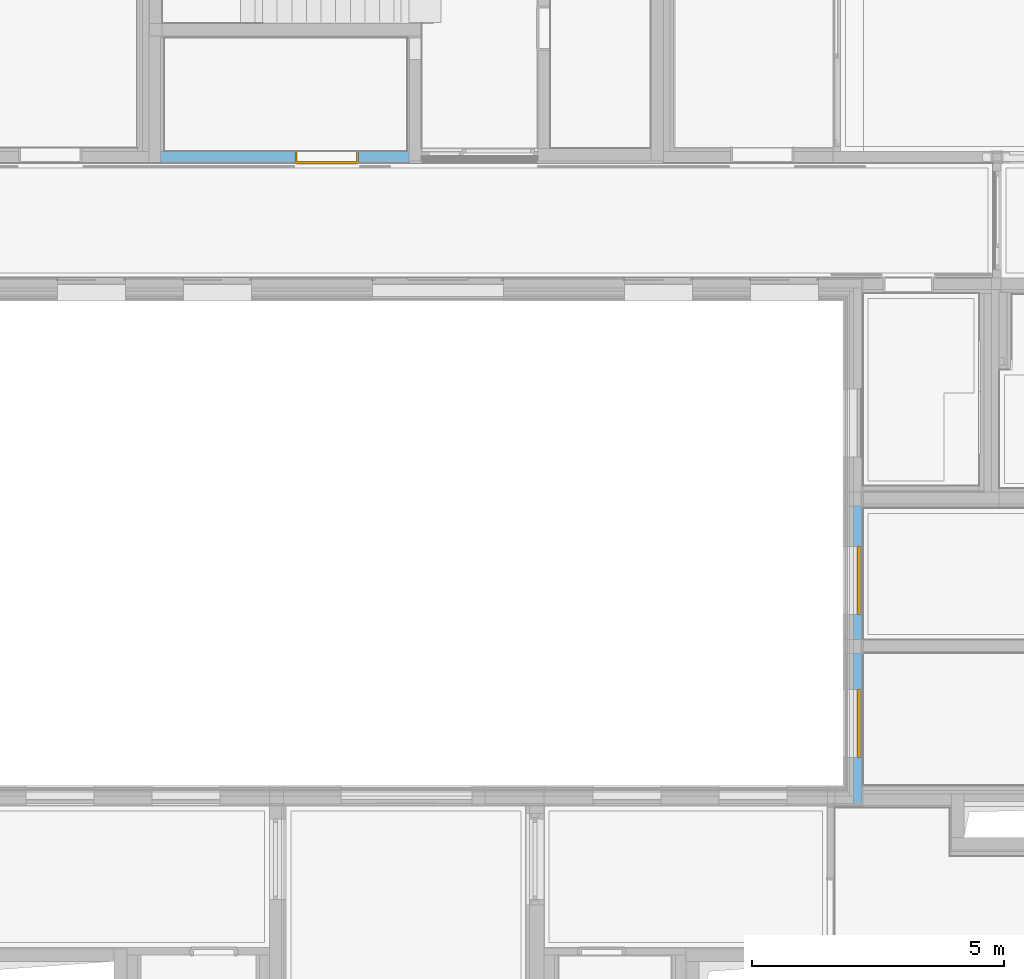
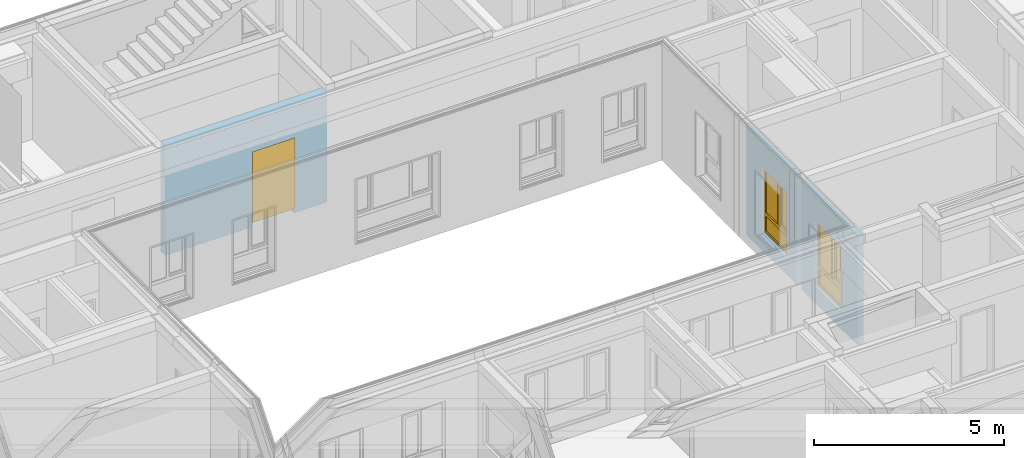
# One storey, part 95 of 222: 2 windows, 1 door, 3 openings, plus 3 elements that do not belong to this part.
"""IFC4 building model written with IfcOpenShell, lengths in metres."""

from ifc_helpers import new_model, entity, si_unit, converted_unit, derived_unit, frame, frame_2d, origin, origin_with_axes, place, context, subcontext, project, spatial, polyline, rectangle, outline, extrude, closed_shell, open_shell, faceted_brep, surface_model, source, transform, mapped, material, type_object, element, fill, save


model = new_model("IFC4")

# Units and contexts
model_context = context("Model", 3, precision=1e-05, world=origin())
body_context = subcontext(model_context, "Body", "Model", "MODEL_VIEW")
ifc_project = project(units=[si_unit("LENGTHUNIT", "METRE"), si_unit("AREAUNIT", "SQUARE_METRE"), si_unit("VOLUMEUNIT", "CUBIC_METRE"), si_unit("MASSUNIT", "GRAM", prefix="KILO"), converted_unit("PLANEANGLEUNIT", "DEGREE", entity("IfcPlaneAngleMeasure", 0.0174532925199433), si_unit("PLANEANGLEUNIT", "RADIAN"), dimensions=[0, 0, 0, 0, 0, 0, 0]), derived_unit("THERMALTRANSMITTANCEUNIT", [(si_unit("POWERUNIT", "WATT"), 1), (si_unit("THERMODYNAMICTEMPERATUREUNIT", "KELVIN"), -1), (si_unit("LENGTHUNIT", "METRE"), -2)]), derived_unit("VOLUMETRICFLOWRATEUNIT", [(si_unit("LENGTHUNIT", "METRE"), 3), (converted_unit("TIMEUNIT", "hour", entity("IfcTimeMeasure", 3600.0), si_unit("TIMEUNIT", "SECOND"), dimensions=[0, 0, 1, 0, 0, 0, 0]), -1), (si_unit("LENGTHUNIT", "METRE"), -1)])], contexts=[model_context])

# Site, building, storey
site_placement = place(None, origin())
site = spatial("IfcSite", under=ifc_project, at=site_placement, Name="Psychiatrie Neubau Wunstorf", CompositionType="ELEMENT")
building_placement = place(site_placement, origin())
building = spatial("IfcBuilding", under=site, at=building_placement, Name="Neubau H2 Stationsgebäude", CompositionType="ELEMENT")
storey_placement = place(building_placement, frame((0.0, 0.0, 3.6)))
storey = spatial("IfcBuildingStorey", under=building, at=storey_placement, Name="H2 Ebene +1", CompositionType="ELEMENT", Elevation=3.6)

# Wall, opening, window
ifc_material_1 = material(Name="WA-DL")
wall_1_placement = place(storey_placement, frame((62.025000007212, 10.1499996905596, 0.0), z_axis=(0.0, 0.0, 1.0), x_axis=(2.43546947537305e-15, 1.0, 0.0)))
wall_1 = element("IfcWall", 1, at=wall_1_placement, inside=storey, material=ifc_material_1, context=body_context, shape_type="SweptSolid", body=[
    extrude(rectangle(XDim=2.98749694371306, YDim=0.16, at=frame_2d((1.49374847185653, 0.08), x_axis=(1.0, 0.0))), origin_with_axes(), (0.0, 0.0, 1.0), 3.55),
])
opening_1_placement = place(wall_1_placement, frame((2.26999694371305, 0.159999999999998, 0.55), z_axis=(2.8421709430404e-15, -1.0, 0.0), x_axis=(0.0, 0.0, 1.0)))
opening_1 = element("IfcOpeningElement", 2, at=opening_1_placement, cuts=wall_1, Name="Fensteröffnung", ObjectType="Opening", context=body_context, shape_type="SweptSolid", body=[
    extrude(outline(polyline([(2.115, 1.35), (2.115, 0.0), (0.0, 0.0), (0.0, 1.35), (2.115, 1.35)])), origin_with_axes(), (0.0, 0.0, 1.0), 0.16),
])
shared_shape_1 = source(origin_with_axes(), body_context, "Body", "SurfaceModel", [
    surface_model("IfcShellBasedSurfaceModel", [(1.35000000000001, 0.0, 2.115), (1.35000000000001, 0.0, 0.0), (1.28000000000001, 0.0, 0.0), (1.28000000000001, 0.0, 2.115), (1.35000000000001, 0.0699999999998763, 0.0), (1.35000000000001, 0.0699999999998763, 2.115), (1.28000000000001, 0.0699999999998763, 2.115), (1.28000000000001, 0.0699999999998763, 0.0)], [closed_shell([[[0, 1, 2, 3]], [[4, 5, 6, 7]], [[1, 0, 5, 4]], [[2, 1, 4, 7]], [[3, 2, 7, 6]], [[0, 3, 6, 5]]], orient=[[False], [False], [False], [False], [False], [False]])]),
    surface_model("IfcShellBasedSurfaceModel", [(0.0700000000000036, 0.0, 2.115), (0.0700000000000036, 0.0, 0.0), (0.0, 0.0, 0.0), (0.0, 0.0, 2.115), (0.0700000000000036, 0.069999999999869, 0.0), (0.0700000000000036, 0.069999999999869, 2.115), (0.0, 0.069999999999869, 2.115), (0.0, 0.069999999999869, 0.0)], [closed_shell([[[0, 1, 2, 3]], [[4, 5, 6, 7]], [[1, 0, 5, 4]], [[2, 1, 4, 7]], [[3, 2, 7, 6]], [[0, 3, 6, 5]]], orient=[[False], [False], [False], [False], [False], [False]])]),
    surface_model("IfcShellBasedSurfaceModel", [(1.28000000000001, 0.0, 0.07), (1.28000000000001, 0.0, 0.0), (0.0700000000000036, 0.0, 0.0), (0.0700000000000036, 0.0, 0.07), (1.28000000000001, 0.0699999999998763, 0.0), (1.28000000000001, 0.0699999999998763, 0.07), (0.0700000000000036, 0.069999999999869, 0.07), (0.0700000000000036, 0.069999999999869, 0.0)], [closed_shell([[[0, 1, 2, 3]], [[4, 5, 6, 7]], [[1, 0, 5, 4]], [[2, 1, 4, 7]], [[3, 2, 7, 6]], [[0, 3, 6, 5]]], orient=[[False], [False], [False], [False], [False], [False]])]),
    surface_model("IfcShellBasedSurfaceModel", [(1.28000000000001, 0.0, 2.115), (1.28000000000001, 0.0, 2.045), (0.0700000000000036, 0.0, 2.045), (0.0700000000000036, 0.0, 2.115), (1.28000000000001, 0.0699999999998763, 2.045), (1.28000000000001, 0.0699999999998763, 2.115), (0.0700000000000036, 0.069999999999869, 2.115), (0.0700000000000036, 0.069999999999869, 2.045)], [closed_shell([[[0, 1, 2, 3]], [[4, 5, 6, 7]], [[1, 0, 5, 4]], [[2, 1, 4, 7]], [[3, 2, 7, 6]], [[0, 3, 6, 5]]], orient=[[False], [False], [False], [False], [False], [False]])]),
    surface_model("IfcShellBasedSurfaceModel", [(1.28000000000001, 0.0, 0.67), (1.28000000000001, 0.0, 0.57), (0.0700000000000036, 0.0, 0.57), (0.0700000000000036, 0.0, 0.67), (1.28000000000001, 0.0699999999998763, 0.57), (1.28000000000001, 0.0699999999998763, 0.67), (0.0700000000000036, 0.069999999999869, 0.67), (0.0700000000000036, 0.069999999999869, 0.57)], [closed_shell([[[0, 1, 2, 3]], [[4, 5, 6, 7]], [[1, 0, 5, 4]], [[2, 1, 4, 7]], [[3, 2, 7, 6]], [[0, 3, 6, 5]]], orient=[[False], [False], [False], [False], [False], [False]])]),
    surface_model("IfcShellBasedSurfaceModel", [(1.28000000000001, 0.0349999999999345, 0.07), (0.0700000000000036, 0.0349999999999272, 0.07), (0.0700000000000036, 0.0349999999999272, 0.57), (1.28000000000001, 0.0349999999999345, 0.57)], [open_shell([[[0, 1, 2, 3]]], orient=[[False]])]),
    surface_model("IfcShellBasedSurfaceModel", [(0.784300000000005, 0.0, 2.045), (0.784300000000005, 0.0, 0.67), (0.714300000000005, 0.0, 0.67), (0.714300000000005, 0.0, 2.045), (0.784300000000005, 0.069999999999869, 0.67), (0.784300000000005, 0.069999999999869, 2.045), (0.714300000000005, 0.069999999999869, 2.045), (0.714300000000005, 0.069999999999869, 0.67)], [closed_shell([[[0, 1, 2, 3]], [[4, 5, 6, 7]], [[1, 0, 5, 4]], [[2, 1, 4, 7]], [[3, 2, 7, 6]], [[0, 3, 6, 5]]], orient=[[False], [False], [False], [False], [False], [False]])]),
    surface_model("IfcShellBasedSurfaceModel", [(1.30000000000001, 0.0499999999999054, 2.065), (1.30000000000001, 0.0499999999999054, 0.65), (1.23000000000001, 0.0499999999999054, 0.65), (1.23000000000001, 0.0499999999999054, 2.065), (1.30000000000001, 0.119999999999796, 0.65), (1.30000000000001, 0.119999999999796, 2.065), (1.23000000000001, 0.119999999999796, 2.065), (1.23000000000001, 0.119999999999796, 0.65)], [closed_shell([[[0, 1, 2, 3]], [[4, 5, 6, 7]], [[1, 0, 5, 4]], [[2, 1, 4, 7]], [[3, 2, 7, 6]], [[0, 3, 6, 5]]], orient=[[False], [False], [False], [False], [False], [False]])]),
    surface_model("IfcShellBasedSurfaceModel", [(0.834300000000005, 0.0499999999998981, 2.065), (0.834300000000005, 0.0499999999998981, 0.65), (0.764300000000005, 0.0499999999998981, 0.65), (0.764300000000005, 0.0499999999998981, 2.065), (0.834300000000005, 0.119999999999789, 0.65), (0.834300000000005, 0.119999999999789, 2.065), (0.764300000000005, 0.119999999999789, 2.065), (0.764300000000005, 0.119999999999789, 0.65)], [closed_shell([[[0, 1, 2, 3]], [[4, 5, 6, 7]], [[1, 0, 5, 4]], [[2, 1, 4, 7]], [[3, 2, 7, 6]], [[0, 3, 6, 5]]], orient=[[False], [False], [False], [False], [False], [False]])]),
    surface_model("IfcShellBasedSurfaceModel", [(1.23000000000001, 0.0499999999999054, 0.72), (1.23000000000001, 0.0499999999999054, 0.65), (0.834300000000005, 0.0499999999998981, 0.65), (0.834300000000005, 0.0499999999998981, 0.72), (1.23000000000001, 0.119999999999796, 0.65), (1.23000000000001, 0.119999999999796, 0.72), (0.834300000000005, 0.119999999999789, 0.72), (0.834300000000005, 0.119999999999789, 0.65)], [closed_shell([[[0, 1, 2, 3]], [[4, 5, 6, 7]], [[1, 0, 5, 4]], [[2, 1, 4, 7]], [[3, 2, 7, 6]], [[0, 3, 6, 5]]], orient=[[False], [False], [False], [False], [False], [False]])]),
    surface_model("IfcShellBasedSurfaceModel", [(1.23000000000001, 0.0499999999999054, 2.065), (1.23000000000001, 0.0499999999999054, 1.995), (0.834300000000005, 0.0499999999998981, 1.995), (0.834300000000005, 0.0499999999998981, 2.065), (1.23000000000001, 0.119999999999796, 1.995), (1.23000000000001, 0.119999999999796, 2.065), (0.834300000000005, 0.119999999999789, 2.065), (0.834300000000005, 0.119999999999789, 1.995)], [closed_shell([[[0, 1, 2, 3]], [[4, 5, 6, 7]], [[1, 0, 5, 4]], [[2, 1, 4, 7]], [[3, 2, 7, 6]], [[0, 3, 6, 5]]], orient=[[False], [False], [False], [False], [False], [False]])]),
    surface_model("IfcShellBasedSurfaceModel", [(0.714300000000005, 0.0349999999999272, 0.67), (0.0700000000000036, 0.0349999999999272, 0.67), (0.0700000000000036, 0.0349999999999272, 2.045), (0.714300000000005, 0.0349999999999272, 2.045)], [open_shell([[[0, 1, 2, 3]]], orient=[[False]])]),
    surface_model("IfcShellBasedSurfaceModel", [(1.23000000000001, 0.0849999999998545, 0.72), (0.834300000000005, 0.0849999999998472, 0.72), (0.834300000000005, 0.0849999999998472, 1.995), (1.23000000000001, 0.0849999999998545, 1.995)], [open_shell([[[0, 1, 2, 3]]], orient=[[False]])]),
])
window_1_placement = place(opening_1_placement, frame((0.0, 0.0, 0.081), z_axis=(1.0, 0.0, 0.0), x_axis=(0.0, 1.0, -5.79629970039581e-15)))
window_1 = element("IfcWindow", 3, at=window_1_placement, inside=storey, Name="Fenster", OverallHeight=2.115, OverallWidth=1.35, PartitioningType="USERDEFINED", PredefinedType="WINDOW", context=body_context, shape_type="MappedRepresentation", body=[
    mapped(shared_shape_1, transform((0.0, 0.0, 0.0), x_axis=(1.0, 0.0, 0.0), y_axis=(0.0, 1.0, 0.0), z_axis=(0.0, 0.0, 1.0), scale=1.0)),
])
fill(opening_1, window_1)

ifc_material_2 = material(Name="WA-DL")
wall_2_placement = place(storey_placement, frame((62.0250000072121, 13.4094966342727, 0.0), z_axis=(0.0, 0.0, 1.0), x_axis=(0.0, 1.0, 0.0)))
wall_2 = element("IfcWall", 4, at=wall_2_placement, inside=storey, material=ifc_material_2, context=body_context, shape_type="SweptSolid", body=[
    extrude(rectangle(XDim=2.65450336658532, YDim=0.16, at=frame_2d((1.32725168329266, 0.08), x_axis=(1.0, 0.0))), origin_with_axes(), (0.0, 0.0, 1.0), 3.55),
])
opening_2_placement = place(wall_2_placement, frame((1.84550336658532, 0.16, 0.55), z_axis=(0.0, -1.0, 0.0), x_axis=(0.0, 0.0, 1.0)))
opening_2 = element("IfcOpeningElement", 5, at=opening_2_placement, cuts=wall_2, Name="Fensteröffnung", ObjectType="Opening", context=body_context, shape_type="SweptSolid", body=[
    extrude(outline(polyline([(2.115, 1.35), (2.115, 0.0), (0.0, 0.0), (0.0, 1.35), (2.115, 1.35)])), origin_with_axes(), (0.0, 0.0, 1.0), 0.16),
])
shared_shape_2 = source(origin_with_axes(), body_context, "Body", "SurfaceModel", [
    surface_model("IfcShellBasedSurfaceModel", [(1.35, 0.0, 2.115), (1.35, 0.0, 0.0), (1.28, 0.0, 0.0), (1.28, 0.0, 2.115), (1.35, 0.069999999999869, 0.0), (1.35, 0.069999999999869, 2.115), (1.28, 0.069999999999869, 2.115), (1.28, 0.069999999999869, 0.0)], [closed_shell([[[0, 1, 2, 3]], [[4, 5, 6, 7]], [[1, 0, 5, 4]], [[2, 1, 4, 7]], [[3, 2, 7, 6]], [[0, 3, 6, 5]]], orient=[[False], [False], [False], [False], [False], [False]])]),
    surface_model("IfcShellBasedSurfaceModel", [(0.0700000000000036, 0.0, 2.115), (0.0700000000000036, 0.0, 0.0), (0.0, 0.0, 0.0), (0.0, 0.0, 2.115), (0.0700000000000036, 0.069999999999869, 0.0), (0.0700000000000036, 0.069999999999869, 2.115), (0.0, 0.069999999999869, 2.115), (0.0, 0.069999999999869, 0.0)], [closed_shell([[[0, 1, 2, 3]], [[4, 5, 6, 7]], [[1, 0, 5, 4]], [[2, 1, 4, 7]], [[3, 2, 7, 6]], [[0, 3, 6, 5]]], orient=[[False], [False], [False], [False], [False], [False]])]),
    surface_model("IfcShellBasedSurfaceModel", [(1.28, 0.0, 0.07), (1.28, 0.0, 0.0), (0.0700000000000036, 0.0, 0.0), (0.0700000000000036, 0.0, 0.07), (1.28, 0.069999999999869, 0.0), (1.28, 0.069999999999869, 0.07), (0.0700000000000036, 0.069999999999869, 0.07), (0.0700000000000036, 0.069999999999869, 0.0)], [closed_shell([[[0, 1, 2, 3]], [[4, 5, 6, 7]], [[1, 0, 5, 4]], [[2, 1, 4, 7]], [[3, 2, 7, 6]], [[0, 3, 6, 5]]], orient=[[False], [False], [False], [False], [False], [False]])]),
    surface_model("IfcShellBasedSurfaceModel", [(1.28, 0.0, 2.115), (1.28, 0.0, 2.045), (0.0700000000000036, 0.0, 2.045), (0.0700000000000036, 0.0, 2.115), (1.28, 0.069999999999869, 2.045), (1.28, 0.069999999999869, 2.115), (0.0700000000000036, 0.069999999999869, 2.115), (0.0700000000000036, 0.069999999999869, 2.045)], [closed_shell([[[0, 1, 2, 3]], [[4, 5, 6, 7]], [[1, 0, 5, 4]], [[2, 1, 4, 7]], [[3, 2, 7, 6]], [[0, 3, 6, 5]]], orient=[[False], [False], [False], [False], [False], [False]])]),
    surface_model("IfcShellBasedSurfaceModel", [(1.28, 0.0, 0.67), (1.28, 0.0, 0.57), (0.0700000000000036, 0.0, 0.57), (0.0700000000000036, 0.0, 0.67), (1.28, 0.069999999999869, 0.57), (1.28, 0.069999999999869, 0.67), (0.0700000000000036, 0.069999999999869, 0.67), (0.0700000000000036, 0.069999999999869, 0.57)], [closed_shell([[[0, 1, 2, 3]], [[4, 5, 6, 7]], [[1, 0, 5, 4]], [[2, 1, 4, 7]], [[3, 2, 7, 6]], [[0, 3, 6, 5]]], orient=[[False], [False], [False], [False], [False], [False]])]),
    surface_model("IfcShellBasedSurfaceModel", [(1.28, 0.0349999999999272, 0.07), (0.0700000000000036, 0.0349999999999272, 0.07), (0.0700000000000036, 0.0349999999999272, 0.57), (1.28, 0.0349999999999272, 0.57)], [open_shell([[[0, 1, 2, 3]]], orient=[[False]])]),
    surface_model("IfcShellBasedSurfaceModel", [(0.784300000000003, 0.0, 2.045), (0.784300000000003, 0.0, 0.67), (0.714300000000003, 0.0, 0.67), (0.714300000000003, 0.0, 2.045), (0.784300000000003, 0.069999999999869, 0.67), (0.784300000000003, 0.069999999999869, 2.045), (0.714300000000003, 0.069999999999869, 2.045), (0.714300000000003, 0.069999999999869, 0.67)], [closed_shell([[[0, 1, 2, 3]], [[4, 5, 6, 7]], [[1, 0, 5, 4]], [[2, 1, 4, 7]], [[3, 2, 7, 6]], [[0, 3, 6, 5]]], orient=[[False], [False], [False], [False], [False], [False]])]),
    surface_model("IfcShellBasedSurfaceModel", [(1.3, 0.0499999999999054, 2.065), (1.3, 0.0499999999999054, 0.65), (1.23, 0.0499999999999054, 0.65), (1.23, 0.0499999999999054, 2.065), (1.3, 0.119999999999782, 0.65), (1.3, 0.119999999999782, 2.065), (1.23, 0.119999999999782, 2.065), (1.23, 0.119999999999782, 0.65)], [closed_shell([[[0, 1, 2, 3]], [[4, 5, 6, 7]], [[1, 0, 5, 4]], [[2, 1, 4, 7]], [[3, 2, 7, 6]], [[0, 3, 6, 5]]], orient=[[False], [False], [False], [False], [False], [False]])]),
    surface_model("IfcShellBasedSurfaceModel", [(0.834300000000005, 0.0499999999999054, 2.065), (0.834300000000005, 0.0499999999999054, 0.65), (0.764300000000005, 0.0499999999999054, 0.65), (0.764300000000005, 0.0499999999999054, 2.065), (0.834300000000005, 0.119999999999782, 0.65), (0.834300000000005, 0.119999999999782, 2.065), (0.764300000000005, 0.119999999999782, 2.065), (0.764300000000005, 0.119999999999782, 0.65)], [closed_shell([[[0, 1, 2, 3]], [[4, 5, 6, 7]], [[1, 0, 5, 4]], [[2, 1, 4, 7]], [[3, 2, 7, 6]], [[0, 3, 6, 5]]], orient=[[False], [False], [False], [False], [False], [False]])]),
    surface_model("IfcShellBasedSurfaceModel", [(1.23, 0.0499999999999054, 0.72), (1.23, 0.0499999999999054, 0.65), (0.834300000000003, 0.0499999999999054, 0.65), (0.834300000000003, 0.0499999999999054, 0.72), (1.23, 0.119999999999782, 0.65), (1.23, 0.119999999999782, 0.72), (0.834300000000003, 0.119999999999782, 0.72), (0.834300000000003, 0.119999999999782, 0.65)], [closed_shell([[[0, 1, 2, 3]], [[4, 5, 6, 7]], [[1, 0, 5, 4]], [[2, 1, 4, 7]], [[3, 2, 7, 6]], [[0, 3, 6, 5]]], orient=[[False], [False], [False], [False], [False], [False]])]),
    surface_model("IfcShellBasedSurfaceModel", [(1.23, 0.0499999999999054, 2.065), (1.23, 0.0499999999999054, 1.995), (0.834300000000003, 0.0499999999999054, 1.995), (0.834300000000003, 0.0499999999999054, 2.065), (1.23, 0.119999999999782, 1.995), (1.23, 0.119999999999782, 2.065), (0.834300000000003, 0.119999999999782, 2.065), (0.834300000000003, 0.119999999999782, 1.995)], [closed_shell([[[0, 1, 2, 3]], [[4, 5, 6, 7]], [[1, 0, 5, 4]], [[2, 1, 4, 7]], [[3, 2, 7, 6]], [[0, 3, 6, 5]]], orient=[[False], [False], [False], [False], [False], [False]])]),
    surface_model("IfcShellBasedSurfaceModel", [(0.714300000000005, 0.0349999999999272, 0.67), (0.0700000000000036, 0.0349999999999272, 0.67), (0.0700000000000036, 0.0349999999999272, 2.045), (0.714300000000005, 0.0349999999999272, 2.045)], [open_shell([[[0, 1, 2, 3]]], orient=[[False]])]),
    surface_model("IfcShellBasedSurfaceModel", [(1.23, 0.0849999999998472, 0.72), (0.834300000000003, 0.0849999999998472, 0.72), (0.834300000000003, 0.0849999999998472, 1.995), (1.23, 0.0849999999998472, 1.995)], [open_shell([[[0, 1, 2, 3]]], orient=[[False]])]),
])
window_2_placement = place(opening_2_placement, frame((0.0, 0.0, 0.081), z_axis=(1.0, 0.0, 0.0), x_axis=(0.0, 1.0, 0.0)))
window_2 = element("IfcWindow", 6, at=window_2_placement, inside=storey, Name="Fenster", OverallHeight=2.115, OverallWidth=1.35, PartitioningType="USERDEFINED", PredefinedType="WINDOW", context=body_context, shape_type="MappedRepresentation", body=[
    mapped(shared_shape_2, transform((0.0, 0.0, 0.0), x_axis=(1.0, 0.0, 0.0), y_axis=(0.0, 1.0, 0.0), z_axis=(0.0, 0.0, 1.0), scale=1.0)),
])
fill(opening_2, window_2)

# Wall, opening, door
ifc_material_3 = material(Name="WI-HW 60")
wall_3_placement = place(storey_placement, frame((53.05, 23.0959999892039, 0.0), z_axis=(0.0, 0.0, 1.0), x_axis=(-1.0, 0.0, 0.0)))
wall_3 = element("IfcWall", 7, at=wall_3_placement, inside=storey, material=ifc_material_3, context=body_context, shape_type="SweptSolid", body=[
    extrude(rectangle(XDim=4.92900000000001, YDim=0.232, at=frame_2d((2.46450000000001, 0.116), x_axis=(1.0, 0.0))), origin_with_axes(), (0.0, 0.0, 1.0), 3.55),
])
opening_3_placement = place(wall_3_placement, frame((1.0, 0.0, 0.0), z_axis=(0.0, 1.0, 0.0), x_axis=(0.0, 0.0, 1.0)))
opening_3 = element("IfcOpeningElement", 8, at=opening_3_placement, cuts=wall_3, Name="SMT", ObjectType="Opening", context=body_context, shape_type="SweptSolid", body=[
    extrude(outline(polyline([(2.41, 1.26), (2.41, 0.0), (0.0, 0.0), (0.0, 1.26), (2.41, 1.26)])), origin_with_axes(), (0.0, 0.0, 1.0), 0.232),
])
ifc_material_4 = material(Name="TI-1F-UZ-ZK")
door_type = type_object("IfcDoorType", Name="SMT", OperationType="SINGLE_SWING_LEFT", ParameterTakesPrecedence=False, PredefinedType="DOOR")
shared_shape_3 = source(origin_with_axes(), body_context, "Body", "Brep", [
    faceted_brep([(1.26, -0.015, 2.41), (1.26, -0.015, 0.15), (1.22, -0.015, 0.15), (1.22, -0.015, 2.41), (1.26, 0.247, 0.15), (1.26, 0.247, 2.41), (1.22, 0.247, 2.41), (1.22, 0.247, 0.15)], [[[0, 1, 2, 3]], [[4, 5, 6, 7]], [[1, 0, 5, 4]], [[2, 1, 4, 7]], [[3, 2, 7, 6]], [[0, 3, 6, 5]]], orient=[[False], [False], [False], [False], [False], [False]]),
    faceted_brep([(1.26, -0.015, 2.425), (1.275, -0.015, 2.425), (1.275, -0.015, 0.15), (1.26, -0.015, 0.15), (1.26, 0.0, 0.15), (1.275, 0.0, 0.15), (1.275, 0.0, 2.425), (1.26, 0.0, 2.425)], [[[0, 1, 2, 3]], [[4, 5, 6, 7]], [[3, 4, 7, 0]], [[2, 5, 4, 3]], [[1, 6, 5, 2]], [[0, 7, 6, 1]]], orient=[[False], [False], [False], [False], [False], [False]]),
    faceted_brep([(1.26, 0.232, 2.425), (1.275, 0.232, 2.425), (1.275, 0.232, 0.15), (1.26, 0.232, 0.15), (1.26, 0.247, 0.15), (1.275, 0.247, 0.15), (1.275, 0.247, 2.425), (1.26, 0.247, 2.425)], [[[0, 1, 2, 3]], [[4, 5, 6, 7]], [[3, 4, 7, 0]], [[2, 5, 4, 3]], [[1, 6, 5, 2]], [[0, 7, 6, 1]]], orient=[[False], [False], [False], [False], [False], [False]]),
    faceted_brep([(0.04, -0.015, 2.41), (0.04, -0.015, 0.15), (0.0, -0.015, 0.15), (0.0, -0.015, 2.41), (0.04, 0.247, 0.15), (0.04, 0.247, 2.41), (0.0, 0.247, 2.41), (0.0, 0.247, 0.15)], [[[0, 1, 2, 3]], [[4, 5, 6, 7]], [[1, 0, 5, 4]], [[2, 1, 4, 7]], [[3, 2, 7, 6]], [[0, 3, 6, 5]]], orient=[[False], [False], [False], [False], [False], [False]]),
    faceted_brep([(0.0, -0.015, 2.425), (0.0, -0.015, 0.15), (-0.015, -0.015, 0.15), (-0.015, -0.015, 2.425), (0.0, 0.0, 0.15), (0.0, 0.0, 2.425), (-0.015, 0.0, 2.425), (-0.015, 0.0, 0.15)], [[[0, 1, 2, 3]], [[4, 5, 6, 7]], [[1, 0, 5, 4]], [[2, 1, 4, 7]], [[3, 2, 7, 6]], [[0, 3, 6, 5]]], orient=[[False], [False], [False], [False], [False], [False]]),
    faceted_brep([(0.0, 0.232, 2.425), (0.0, 0.232, 0.15), (-0.015, 0.232, 0.15), (-0.015, 0.232, 2.425), (0.0, 0.247, 0.15), (0.0, 0.247, 2.425), (-0.015, 0.247, 2.425), (-0.015, 0.247, 0.15)], [[[0, 1, 2, 3]], [[4, 5, 6, 7]], [[1, 0, 5, 4]], [[2, 1, 4, 7]], [[3, 2, 7, 6]], [[0, 3, 6, 5]]], orient=[[False], [False], [False], [False], [False], [False]]),
    faceted_brep([(1.22, -0.015, 2.41), (1.22, -0.015, 2.37), (0.04, -0.015, 2.37), (0.04, -0.015, 2.41), (1.22, 0.247, 2.37), (1.22, 0.247, 2.41), (0.04, 0.247, 2.41), (0.04, 0.247, 2.37)], [[[0, 1, 2, 3]], [[4, 5, 6, 7]], [[1, 0, 5, 4]], [[2, 1, 4, 7]], [[3, 2, 7, 6]], [[0, 3, 6, 5]]], orient=[[False], [False], [False], [False], [False], [False]]),
    faceted_brep([(1.26, -0.015, 2.425), (1.26, -0.015, 2.41), (0.0, -0.015, 2.41), (0.0, -0.015, 2.425), (1.26, 0.0, 2.41), (1.26, 0.0, 2.425), (0.0, 0.0, 2.425), (0.0, 0.0, 2.41)], [[[0, 1, 2, 3]], [[4, 5, 6, 7]], [[1, 0, 5, 4]], [[2, 1, 4, 7]], [[3, 2, 7, 6]], [[0, 3, 6, 5]]], orient=[[False], [False], [False], [False], [False], [False]]),
    faceted_brep([(1.26, 0.232, 2.425), (1.26, 0.232, 2.41), (0.0, 0.232, 2.41), (0.0, 0.232, 2.425), (1.26, 0.247, 2.41), (1.26, 0.247, 2.425), (0.0, 0.247, 2.425), (0.0, 0.247, 2.41)], [[[0, 1, 2, 3]], [[4, 5, 6, 7]], [[1, 0, 5, 4]], [[2, 1, 4, 7]], [[3, 2, 7, 6]], [[0, 3, 6, 5]]], orient=[[False], [False], [False], [False], [False], [False]]),
    faceted_brep([(1.235, 0.198, 2.385), (1.235, 0.198, 0.15), (0.025, 0.198, 0.15), (0.025, 0.198, 2.385), (1.235, 0.248, 0.15), (1.235, 0.248, 2.385), (0.025, 0.248, 2.385), (0.025, 0.248, 0.15)], [[[0, 1, 2, 3]], [[4, 5, 6, 7]], [[1, 0, 5, 4]], [[2, 1, 4, 7]], [[3, 2, 7, 6]], [[0, 3, 6, 5]]], orient=[[False], [False], [False], [False], [False], [False]]),
])
door_placement = place(opening_3_placement, frame((0.0, 0.0, 0.0), z_axis=(1.0, 0.0, 0.0), x_axis=(0.0, 1.0, 0.0)))
door = element("IfcDoor", 9, at=door_placement, inside=storey, type_object=door_type, material=ifc_material_4, Name="SMT", OverallHeight=2.41, OverallWidth=1.26, context=body_context, shape_type="MappedRepresentation", body=[
    mapped(shared_shape_3, transform((0.0, 0.0, 0.0), x_axis=(1.0, 0.0, 0.0), y_axis=(0.0, 1.0, 0.0), z_axis=(0.0, 0.0, 1.0), scale=1.0)),
])
fill(opening_3, door)

save(model, "model.ifc")
